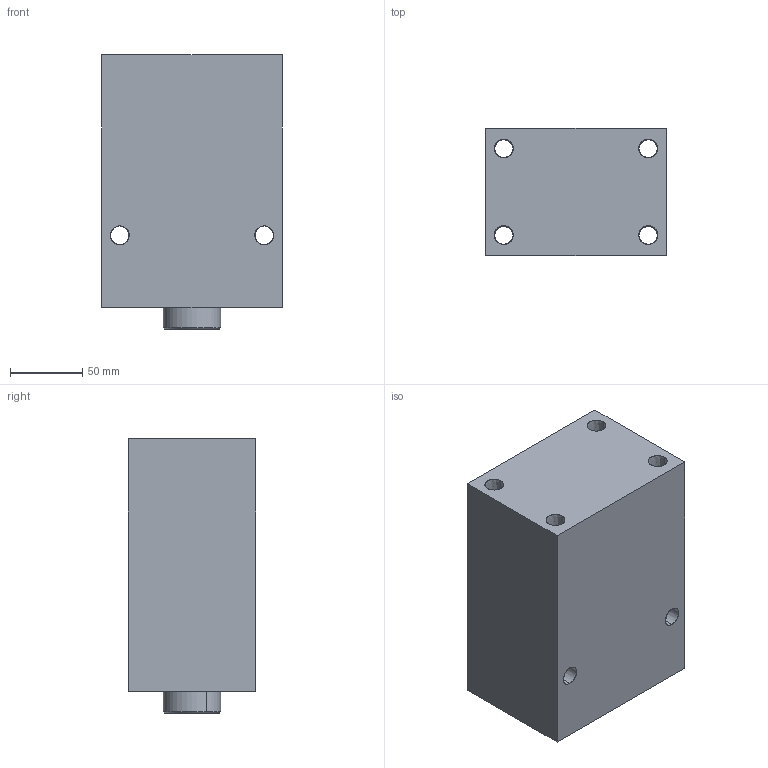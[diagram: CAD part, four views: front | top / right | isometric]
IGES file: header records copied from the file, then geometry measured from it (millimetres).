
Start section: SolidWorks IGES file using analytic representation for surfaces
Global section: file name: D:\karuppas\Clasp\3D model\Block cylinder B01C-Female thread\B01C-610F\Block cylinder B01C-6100F.IGS; native system: SolidWorks 2017; preprocessor: SolidWorks 2017; author: pc; date: 220710.000328; units: millimetre
Bounding box: 125 x 88 x 190 mm (x, y, z)
Surface area: 161751.9 mm2 (no closed solid volume)
Topology: 0 solids, 0 shells, 341 faces, 5215 edges, 5209 vertices
Faces by surface type: bspline 289, revolution 52
